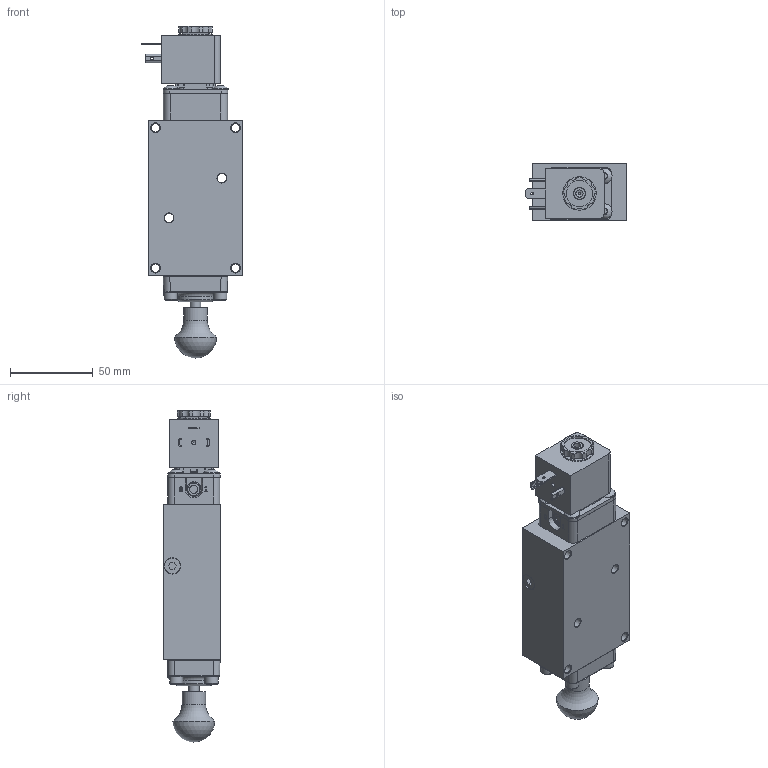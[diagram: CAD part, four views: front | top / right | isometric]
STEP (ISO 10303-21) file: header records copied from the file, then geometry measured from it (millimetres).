
FILE_DESCRIPTION(/* description */ (''),/* implementation_level */ '2;1');
FILE_NAME(/* name */ 'D:\Website Files\stp\Valves\Standard\ESO\ZNSO2HOS.stp',/* time_stamp */ '2016-05-25T13:50:38-04:00',/* author */ ('RMcKenna'),/* organization */ (''),/* preprocessor_version */ 'ST-DEVELOPER v15.6',/* originating_system */ 'Autodesk Inventor 2015',/* authorisation */ '');
FILE_SCHEMA (('AUTOMOTIVE_DESIGN { 1 0 10303 214 3 1 1 }'));
Length unit declared in the file: centimetre
Products named in the file (1): Part20
Bounding box: 61.36 x 34.92 x 200.97 mm (x, y, z)
Volume: 231339.4 mm3; surface area: 75757.8 mm2
Topology: 1 solids, 23 shells, 1493 faces, 3639 edges, 2307 vertices
Faces by surface type: plane 653, cylinder 391, cone 263, torus 117, bspline 63, sphere 6
Full cylindrical faces by diameter (mm): 1.3 x1, 1.397 x1, 1.5 x2, 1.651 x2, 2.007 x2, 2.032 x8, 2.35 x4, 2.381 x1, 2.388 x2, 2.5 x1, 2.8 x1, 2.819 x1, 3 x4, 3.048 x1, 3.175 x2, 3.4 x1, 3.683 x9, 4.191 x2, 4.305 x1, 4.826 x8, 4.953 x1, 4.978 x1, 5.15 x4, 5.156 x12, 5.5 x1, 5.512 x1, 5.556 x2, 6.35 x4, 6.553 x1, 6.731 x1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
Entity records: 46118 total; most frequent: CARTESIAN_POINT 11324, DIRECTION 6963, ORIENTED_EDGE 6478, EDGE_CURVE 3237, AXIS2_PLACEMENT_3D 2718, VERTEX_POINT 2184, EDGE_LOOP 1953, LINE 1527
